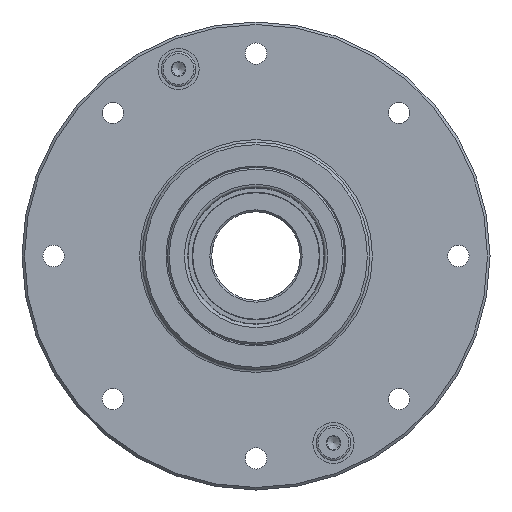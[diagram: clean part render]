
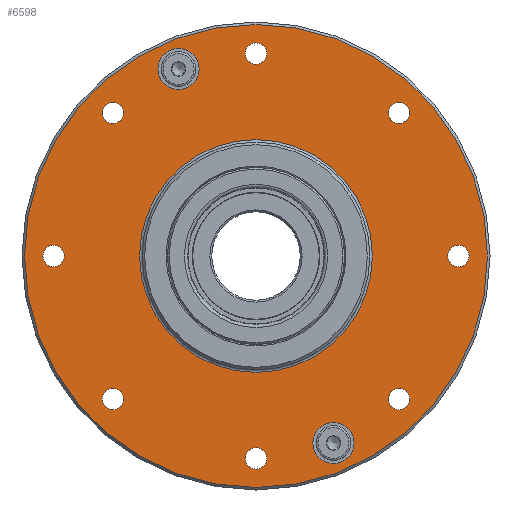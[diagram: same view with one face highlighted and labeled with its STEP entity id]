
A CAD part, left-side view. The second image highlights one B-rep face of the part: STEP entity #6598.
In plain terms, the highlighted planar face has unit normal (-1, 0, 0).
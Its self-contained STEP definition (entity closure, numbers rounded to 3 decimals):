
#5723=PLANE('',#23958);
#6598=ADVANCED_FACE('',(#8448,#8449,#8450,#8451,#8452,#8453,#8454,#8455,
#8456,#8457,#8458,#8459),#5723,.F.);
#8448=FACE_BOUND('',#10016,.T.);
#8449=FACE_BOUND('',#10017,.T.);
#8450=FACE_BOUND('',#10018,.T.);
#8451=FACE_BOUND('',#10019,.T.);
#8452=FACE_BOUND('',#10020,.T.);
#8453=FACE_BOUND('',#10021,.T.);
#8454=FACE_BOUND('',#10022,.T.);
#8455=FACE_BOUND('',#10023,.T.);
#8456=FACE_BOUND('',#10024,.T.);
#8457=FACE_BOUND('',#10025,.T.);
#8458=FACE_BOUND('',#10026,.T.);
#8459=FACE_BOUND('',#10027,.T.);
#10016=EDGE_LOOP('',(#13625));
#10017=EDGE_LOOP('',(#13626));
#10018=EDGE_LOOP('',(#13627));
#10019=EDGE_LOOP('',(#13628));
#10020=EDGE_LOOP('',(#13629));
#10021=EDGE_LOOP('',(#13630));
#10022=EDGE_LOOP('',(#13631));
#10023=EDGE_LOOP('',(#13632));
#10024=EDGE_LOOP('',(#13633));
#10025=EDGE_LOOP('',(#13634));
#10026=EDGE_LOOP('',(#13635));
#10027=EDGE_LOOP('',(#13636));
#13625=ORIENTED_EDGE('',*,*,#19497,.T.);
#13626=ORIENTED_EDGE('',*,*,#19490,.T.);
#13627=ORIENTED_EDGE('',*,*,#19485,.T.);
#13628=ORIENTED_EDGE('',*,*,#19483,.T.);
#13629=ORIENTED_EDGE('',*,*,#19481,.T.);
#13630=ORIENTED_EDGE('',*,*,#19479,.T.);
#13631=ORIENTED_EDGE('',*,*,#19477,.T.);
#13632=ORIENTED_EDGE('',*,*,#19475,.T.);
#13633=ORIENTED_EDGE('',*,*,#19473,.T.);
#13634=ORIENTED_EDGE('',*,*,#19471,.T.);
#13635=ORIENTED_EDGE('',*,*,#19466,.T.);
#13636=ORIENTED_EDGE('',*,*,#19462,.T.);
#17178=VERTEX_POINT('',#36940);
#17182=VERTEX_POINT('',#36951);
#17187=VERTEX_POINT('',#36964);
#17189=VERTEX_POINT('',#36969);
#17191=VERTEX_POINT('',#36974);
#17193=VERTEX_POINT('',#36979);
#17195=VERTEX_POINT('',#36984);
#17197=VERTEX_POINT('',#36989);
#17199=VERTEX_POINT('',#36994);
#17201=VERTEX_POINT('',#36999);
#17206=VERTEX_POINT('',#37012);
#17213=VERTEX_POINT('',#37029);
#19462=EDGE_CURVE('',#17178,#17178,#21981,.T.);
#19466=EDGE_CURVE('',#17182,#17182,#21985,.T.);
#19471=EDGE_CURVE('',#17187,#17187,#21990,.T.);
#19473=EDGE_CURVE('',#17189,#17189,#21992,.T.);
#19475=EDGE_CURVE('',#17191,#17191,#21994,.T.);
#19477=EDGE_CURVE('',#17193,#17193,#21996,.T.);
#19479=EDGE_CURVE('',#17195,#17195,#21998,.T.);
#19481=EDGE_CURVE('',#17197,#17197,#22000,.T.);
#19483=EDGE_CURVE('',#17199,#17199,#22002,.T.);
#19485=EDGE_CURVE('',#17201,#17201,#22004,.T.);
#19490=EDGE_CURVE('',#17206,#17206,#22009,.T.);
#19497=EDGE_CURVE('',#17213,#17213,#22016,.T.);
#21981=CIRCLE('',#23873,3.25);
#21985=CIRCLE('',#23880,3.25);
#21990=CIRCLE('',#23888,1.7);
#21992=CIRCLE('',#23891,1.7);
#21994=CIRCLE('',#23894,1.7);
#21996=CIRCLE('',#23897,1.7);
#21998=CIRCLE('',#23900,1.7);
#22000=CIRCLE('',#23903,1.7);
#22002=CIRCLE('',#23906,1.7);
#22004=CIRCLE('',#23909,1.7);
#22009=CIRCLE('',#23917,36.6);
#22016=CIRCLE('',#23927,18.4);
#23873=AXIS2_PLACEMENT_3D('',#36939,#27869,#27870);
#23880=AXIS2_PLACEMENT_3D('',#36950,#27883,#27884);
#23888=AXIS2_PLACEMENT_3D('',#36963,#27899,#27900);
#23891=AXIS2_PLACEMENT_3D('',#36968,#27905,#27906);
#23894=AXIS2_PLACEMENT_3D('',#36973,#27911,#27912);
#23897=AXIS2_PLACEMENT_3D('',#36978,#27917,#27918);
#23900=AXIS2_PLACEMENT_3D('',#36983,#27923,#27924);
#23903=AXIS2_PLACEMENT_3D('',#36988,#27929,#27930);
#23906=AXIS2_PLACEMENT_3D('',#36993,#27935,#27936);
#23909=AXIS2_PLACEMENT_3D('',#36998,#27941,#27942);
#23917=AXIS2_PLACEMENT_3D('',#37011,#27957,#27958);
#23927=AXIS2_PLACEMENT_3D('',#37028,#27977,#27978);
#23958=AXIS2_PLACEMENT_3D('',#37071,#28039,#28040);
#27869=DIRECTION('',(1.,0.,0.));
#27870=DIRECTION('',(0.,0.,1.));
#27883=DIRECTION('',(1.,0.,0.));
#27884=DIRECTION('',(0.,0.,-1.));
#27899=DIRECTION('',(1.,0.,0.));
#27900=DIRECTION('',(0.,1.,0.));
#27905=DIRECTION('',(1.,0.,0.));
#27906=DIRECTION('',(0.,0.707,0.707));
#27911=DIRECTION('',(1.,0.,0.));
#27912=DIRECTION('',(0.,0.,1.));
#27917=DIRECTION('',(1.,0.,0.));
#27918=DIRECTION('',(0.,-0.707,0.707));
#27923=DIRECTION('',(1.,0.,0.));
#27924=DIRECTION('',(0.,-1.,0.));
#27929=DIRECTION('',(1.,0.,0.));
#27930=DIRECTION('',(0.,-0.707,-0.707));
#27935=DIRECTION('',(1.,0.,0.));
#27936=DIRECTION('',(0.,0.707,-0.707));
#27941=DIRECTION('',(1.,0.,0.));
#27942=DIRECTION('',(0.,0.,-1.));
#27957=DIRECTION('',(-1.,0.,0.));
#27958=DIRECTION('',(0.,0.,-1.));
#27977=DIRECTION('',(1.,0.,0.));
#27978=DIRECTION('',(0.,0.,-1.));
#28039=DIRECTION('',(1.,0.,0.));
#28040=DIRECTION('',(0.,0.,-1.));
#36939=CARTESIAN_POINT('',(5.5,-12.246,-29.564));
#36940=CARTESIAN_POINT('',(5.5,-12.246,-26.314));
#36950=CARTESIAN_POINT('',(5.5,12.246,29.564));
#36951=CARTESIAN_POINT('',(5.5,12.246,26.314));
#36963=CARTESIAN_POINT('',(5.5,0.,32.));
#36964=CARTESIAN_POINT('',(5.5,1.7,32.));
#36968=CARTESIAN_POINT('',(5.5,-22.627,22.627));
#36969=CARTESIAN_POINT('',(5.5,-21.425,23.829));
#36973=CARTESIAN_POINT('',(5.5,-32.,0.));
#36974=CARTESIAN_POINT('',(5.5,-32.,1.7));
#36978=CARTESIAN_POINT('',(5.5,-22.627,-22.627));
#36979=CARTESIAN_POINT('',(5.5,-23.829,-21.425));
#36983=CARTESIAN_POINT('',(5.5,0.,-32.));
#36984=CARTESIAN_POINT('',(5.5,-1.7,-32.));
#36988=CARTESIAN_POINT('',(5.5,22.627,-22.627));
#36989=CARTESIAN_POINT('',(5.5,21.425,-23.829));
#36993=CARTESIAN_POINT('',(5.5,22.627,22.627));
#36994=CARTESIAN_POINT('',(5.5,23.829,21.425));
#36998=CARTESIAN_POINT('',(5.5,32.,0.));
#36999=CARTESIAN_POINT('',(5.5,32.,-1.7));
#37011=CARTESIAN_POINT('',(5.5,0.,0.));
#37012=CARTESIAN_POINT('',(5.5,0.,-36.6));
#37028=CARTESIAN_POINT('',(5.5,0.,0.));
#37029=CARTESIAN_POINT('',(5.5,0.,-18.4));
#37071=CARTESIAN_POINT('',(5.5,37.,0.));
